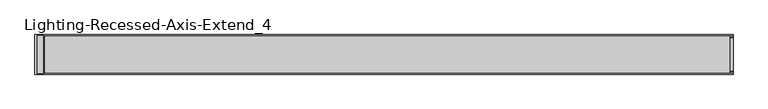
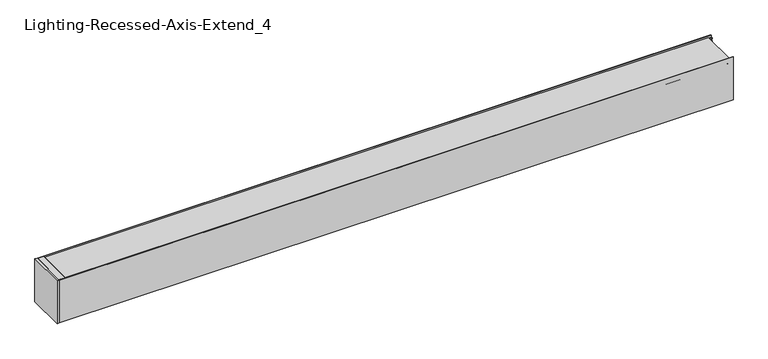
"""IFC4 building model written with IfcOpenShell, lengths in millimetres: light fixture geometry, Lighting-Recessed-Axis-Extend_4 : EX4R-900-80-35-SO-4."""

from ifc_helpers import new_model, si_unit, point, frame, frame_2d, origin, place, context, project, spatial, polyline, circle_curve, trimmed, segment, composite_curve, outline, extrude, source, transform, mapped, element, save


def lighting_recessed_axis_extend_4_c7a2c006(model_context):
    return source(origin(), model_context, "Body", "SweptSolid", [
        extrude(outline(polyline([(-1.1017139, -911.0726), (0.0, -911.9971437), (0.0, -929.386), (-4.5842019, -929.386), (-4.5842019, -918.718), (-1.778, -918.718), (-1.778, -911.86635), (-2.57175, -911.86635), (-2.57175, -911.0726), (-1.1017139, -911.0726)])), frame((0.0, -50.75301, 0.0), z_axis=(0.0, 1.0, 0.0), x_axis=(0.0, 0.0, 1.0)), (0.0, 0.0, 1.0), 101.50602),
        extrude(outline(polyline([(-929.386, 52.78501), (-929.386, -52.78501), (-935.736, -52.78501), (-935.736, 52.78501), (-929.386, 52.78501)])), frame((0.0, 0.0, -124.7775), z_axis=(0.0, 0.0, 1.0), x_axis=(1.0, 0.0, 0.0)), (0.0, 0.0, 1.0), 124.7775),
        extrude(outline(composite_curve([segment(polyline([(-44.9537362, -4.8895009), (-45.2924281, -11.3521263)]), True, "CONTINUOUS"), segment(trimmed(circle_curve(frame_2d((-48.03521, -14.351)), 4.064), [point((-45.2924281, -11.3521263))], [point((-46.1628914, -17.9580097))], False, "CARTESIAN"), True, "CONTINUOUS"), segment(trimmed(circle_curve(frame_2d((-42.930354, -17.1691543)), 3.3274001), [point((-46.1628914, -17.9580097))], [point((-45.3476056, -19.4557425))], True, "CARTESIAN"), True, "CONTINUOUS"), segment(trimmed(circle_curve(frame_2d((-37.9113277, -12.4214292)), 10.2362001), [point((-45.3476056, -19.4557425))], [point((-43.9929166, -20.6551445))], True, "CARTESIAN"), True, "CONTINUOUS"), segment(trimmed(circle_curve(frame_2d((-44.4833673, -21.3191538)), 0.8255), [point((-43.9929166, -20.6551445))], [point((-44.973818, -21.9831631))], False, "CARTESIAN"), True, "CONTINUOUS"), segment(trimmed(circle_curve(frame_2d((-37.9113269, -12.4214283)), 11.8872013), [point((-44.973818, -21.9831631))], [point((-46.5470052, -20.5903092))], False, "CARTESIAN"), True, "CONTINUOUS"), segment(trimmed(circle_curve(frame_2d((-42.930354, -17.1691543)), 4.9784001), [point((-46.5470052, -20.5903092))], [point((-47.8918907, -16.75974))], False, "CARTESIAN"), True, "CONTINUOUS"), segment(trimmed(circle_curve(frame_2d((-48.03521, -14.351)), 2.413), [point((-47.8918907, -16.75974))], [point((-46.2564041, -12.7205342))], True, "CARTESIAN"), True, "CONTINUOUS"), segment(trimmed(circle_curve(frame_2d((-44.3839769, -11.0042544)), 2.54), [point((-46.2564041, -12.7205342))], [point((-46.9204959, -10.8713211))], False, "CARTESIAN"), True, "CONTINUOUS"), segment(polyline([(-46.9204959, -10.8713211), (-46.607002, -4.8895009), (-49.61001, -4.8895009), (-49.61001, -2.9845), (49.61001, -2.9845), (49.61001, -4.8895009), (46.607002, -4.8895009), (46.9204959, -10.8713211)]), True, "CONTINUOUS"), segment(trimmed(circle_curve(frame_2d((44.3839769, -11.0042544)), 2.54), [point((46.9204959, -10.8713211))], [point((46.2564041, -12.7205342))], False, "CARTESIAN"), True, "CONTINUOUS"), segment(trimmed(circle_curve(frame_2d((48.03521, -14.351)), 2.413), [point((46.2564041, -12.7205342))], [point((47.8918907, -16.75974))], True, "CARTESIAN"), True, "CONTINUOUS"), segment(trimmed(circle_curve(frame_2d((42.930354, -17.1691543)), 4.9784001), [point((47.8918907, -16.75974))], [point((46.5470052, -20.5903092))], False, "CARTESIAN"), True, "CONTINUOUS"), segment(trimmed(circle_curve(frame_2d((37.9113269, -12.4214283)), 11.8872013), [point((46.5470052, -20.5903092))], [point((44.973818, -21.9831631))], False, "CARTESIAN"), True, "CONTINUOUS"), segment(trimmed(circle_curve(frame_2d((44.4833673, -21.3191538)), 0.8255), [point((44.973818, -21.9831631))], [point((43.9929166, -20.6551445))], False, "CARTESIAN"), True, "CONTINUOUS"), segment(trimmed(circle_curve(frame_2d((37.9113277, -12.4214292)), 10.2362001), [point((43.9929166, -20.6551445))], [point((45.3476056, -19.4557425))], True, "CARTESIAN"), True, "CONTINUOUS"), segment(trimmed(circle_curve(frame_2d((42.930354, -17.1691543)), 3.3274001), [point((45.3476056, -19.4557425))], [point((46.1628914, -17.9580097))], True, "CARTESIAN"), True, "CONTINUOUS"), segment(trimmed(circle_curve(frame_2d((48.03521, -14.351)), 4.064), [point((46.1628914, -17.9580097))], [point((45.2924281, -11.3521263))], False, "CARTESIAN"), True, "CONTINUOUS"), segment(polyline([(45.2924281, -11.3521263), (44.9537362, -4.8895009), (-44.9537362, -4.8895009)]), True, "CONTINUOUS")], self_intersect=False)), frame((-914.4, 0.0, 0.0), z_axis=(1.0, 0.0, 0.0), x_axis=(0.0, 1.0, 0.0)), (0.0, 0.0, 1.0), 1828.8),
        extrude(outline(composite_curve([segment(polyline([(-50.75301, -14.9098), (-50.75301, -122.7455), (50.75301, -122.7455), (50.75301, -14.9098), (48.9135897, -14.9098)]), True, "CONTINUOUS"), segment(trimmed(circle_curve(frame_2d((47.4072397, -14.9098)), 1.5063501), [point((48.9135897, -14.9098))], [point((46.6540646, -16.2143374))], False, "CARTESIAN"), True, "CONTINUOUS"), segment(trimmed(circle_curve(frame_2d((47.8452221, -14.1511921)), 2.382315), [point((46.6540646, -16.2143374))], [point((45.4706616, -13.9591318))], False, "CARTESIAN"), True, "CONTINUOUS"), segment(polyline([(45.4706616, -13.9591318), (48.84801, -11.1252), (48.84801, -12.8778), (50.75301, -12.8778), (50.75301, -6.35), (48.84801, -6.35), (48.84801, -7.874), (47.19701, -7.7874748), (47.19701, -5.08), (50.75301, -5.08), (50.75301, 0.0), (52.78501, 0.0), (52.78501, -124.7775), (-52.78501, -124.7775), (-52.78501, 0.0), (-50.75301, 0.0), (-50.75301, -5.08), (-47.19701, -5.08), (-47.19701, -7.7874748), (-48.84801, -7.874), (-48.84801, -6.35), (-50.75301, -6.35), (-50.75301, -12.8778), (-48.84801, -12.8778), (-48.84801, -11.1252), (-45.4706616, -13.9591318)]), True, "CONTINUOUS"), segment(trimmed(circle_curve(frame_2d((-47.8452221, -14.1511921)), 2.382315), [point((-45.4706616, -13.9591318))], [point((-46.6540646, -16.2143374))], False, "CARTESIAN"), True, "CONTINUOUS"), segment(trimmed(circle_curve(frame_2d((-47.4072397, -14.9098)), 1.5063501), [point((-46.6540646, -16.2143374))], [point((-48.9135897, -14.9098))], False, "CARTESIAN"), True, "CONTINUOUS"), segment(polyline([(-48.9135897, -14.9098), (-50.75301, -14.9098)]), True, "CONTINUOUS")], self_intersect=False)), frame((-929.386, 0.0, 0.0), z_axis=(1.0, 0.0, 0.0), x_axis=(0.0, 1.0, 0.0)), (0.0, 0.0, 1.0), 1852.9427),
    ])


if __name__ == "__main__":
    model = new_model("IFC4")
    model_context = context("Model", 3, world=origin())
    ifc_project = project(units=[si_unit("LENGTHUNIT", "METRE", prefix="MILLI")], contexts=[model_context])
    site = spatial("IfcSite", under=ifc_project)
    building = spatial("IfcBuilding", under=site)
    placement = place(None, origin())
    lighting_recessed_axis_extend_4_shape = lighting_recessed_axis_extend_4_c7a2c006(model_context)
    element("IfcLightFixture", 1, ObjectType="Lighting-Recessed-Axis-Extend_4 : EX4R-900-80-35-SO-4", at=placement, inside=building, context=model_context, shape_type="MappedRepresentation", body=[
        mapped(lighting_recessed_axis_extend_4_shape, transform((0.0, 0.0, 0.0), x_axis=(1.0, 0.0, 0.0), y_axis=(0.0, 1.0, 0.0), z_axis=(0.0, 0.0, 1.0))),
    ])
    save(model, "model.ifc")
